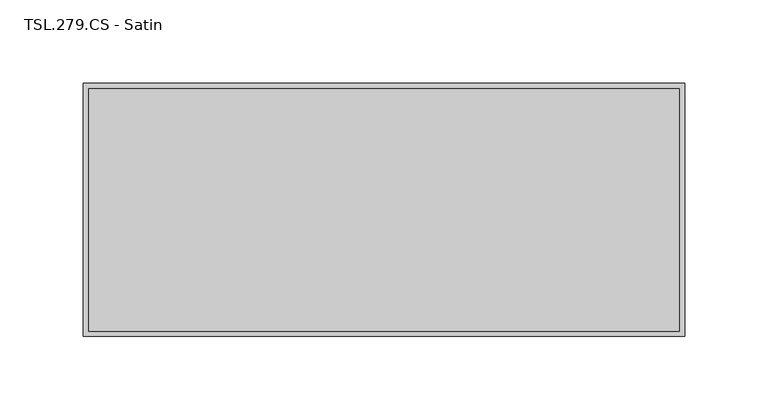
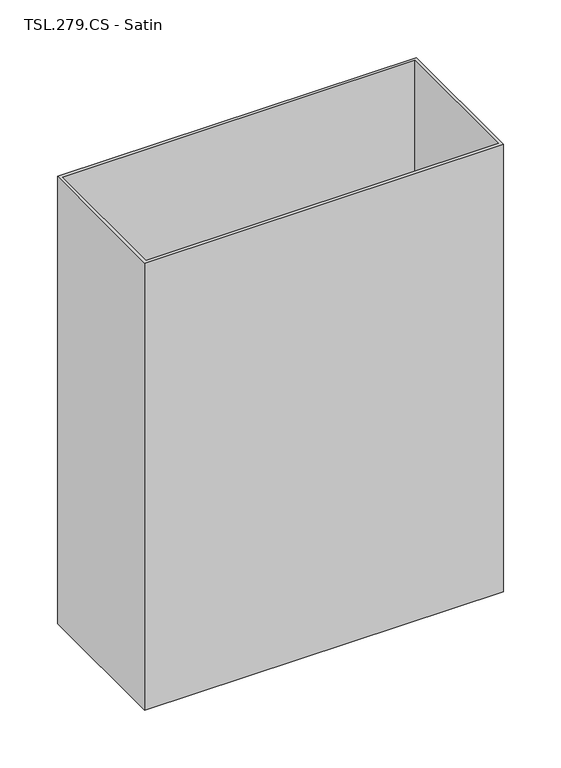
"""IFC4 building model written with IfcOpenShell, lengths in millimetres: proxy geometry, TSL_UK - TSL279 - 25L Waste Receptacle : TSL.279.CS - Satin."""

from ifc_helpers import new_model, si_unit, origin, place, context, project, spatial, faceted_brep, source, transform, mapped, element, save


def tsl_279_cs_satin_eb8fa19e(model_context):
    return source(origin(), model_context, "Body", "Brep", [
        faceted_brep([(180.18125, 0.0, 800.0), (-180.18125, 0.0, 800.0), (-180.18125, -151.60625, 800.0), (180.18125, -151.60625, 800.0), (177.00625, -3.175, 800.0), (177.00625, -148.43125, 800.0), (-177.00625, -148.43125, 800.0), (-177.00625, -3.175, 800.0), (180.18125, 0.0, 325.3375), (-180.18125, 0.0, 325.3375), (-180.18125, -151.60625, 325.3375), (180.18125, -151.60625, 325.3375), (177.00625, -3.175, 328.5125), (177.00625, -148.43125, 328.5125), (-177.00625, -148.43125, 328.5125), (-177.00625, -3.175, 328.5125)], [[[0, 1, 2, 3], [4, 5, 6, 7]], [[1, 0, 8, 9]], [[2, 1, 9, 10]], [[3, 2, 10, 11]], [[8, 0, 3, 11]], [[5, 4, 12, 13]], [[6, 5, 13, 14]], [[7, 6, 14, 15]], [[4, 7, 15, 12]], [[13, 12, 15, 14]], [[8, 11, 10, 9]]]),
    ])


if __name__ == "__main__":
    model = new_model("IFC4")
    model_context = context("Model", 3, world=origin())
    ifc_project = project(units=[si_unit("LENGTHUNIT", "METRE", prefix="MILLI")], contexts=[model_context])
    site = spatial("IfcSite", under=ifc_project)
    building = spatial("IfcBuilding", under=site)
    placement = place(None, origin())
    tsl_279_cs_satin_shape = tsl_279_cs_satin_eb8fa19e(model_context)
    element("IfcBuildingElementProxy", 1, Name="TSL_UK - TSL279 - 25L Waste Receptacle : TSL.279.CS - Satin", ObjectType="TSL_UK - TSL279 - 25L Waste Receptacle : TSL.279.CS - Satin", at=placement, inside=building, context=model_context, shape_type="MappedRepresentation", body=[
        mapped(tsl_279_cs_satin_shape, transform((0.0, 0.0, 0.0), x_axis=(1.0, 0.0, 0.0), y_axis=(0.0, 1.0, 0.0), z_axis=(0.0, 0.0, 1.0))),
    ])
    save(model, "model.ifc")
